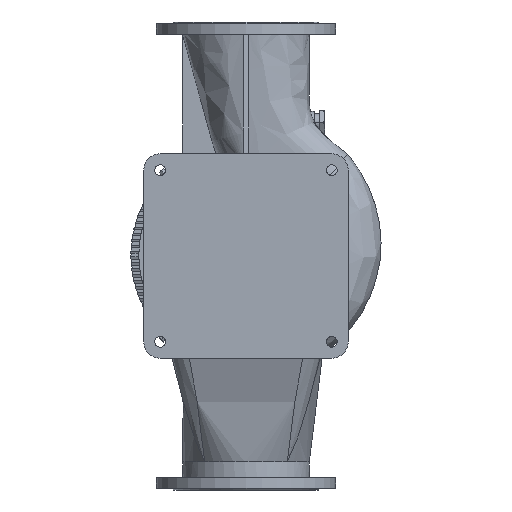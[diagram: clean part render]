
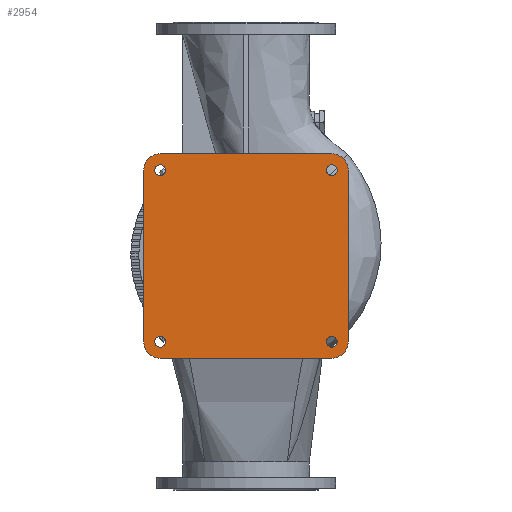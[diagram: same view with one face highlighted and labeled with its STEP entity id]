
A CAD part, front view. The second image highlights one B-rep face of the part: STEP entity #2954.
In plain terms, the highlighted planar face has unit normal (0, -1, 0).
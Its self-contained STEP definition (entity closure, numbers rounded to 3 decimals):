
#821=FACE_BOUND('',#6919,.T.);
#822=FACE_BOUND('',#6920,.T.);
#823=FACE_BOUND('',#6921,.T.);
#824=FACE_BOUND('',#6922,.T.);
#825=FACE_BOUND('',#6923,.T.);
#2210=PLANE('',#29421);
#2954=ADVANCED_FACE('',(#821,#822,#823,#824,#825),#2210,.T.);
#6919=EDGE_LOOP('',(#11233,#11234));
#6920=EDGE_LOOP('',(#11235,#11236));
#6921=EDGE_LOOP('',(#11237,#11238,#11239,#11240,#11241,#11242,#11243,#11244));
#6922=EDGE_LOOP('',(#11245,#11246));
#6923=EDGE_LOOP('',(#11247,#11248));
#8988=CIRCLE('',#29276,14.);
#8990=CIRCLE('',#29279,14.);
#8992=CIRCLE('',#29282,14.);
#8994=CIRCLE('',#29285,14.);
#9072=CIRCLE('',#29413,14.);
#9073=CIRCLE('',#29414,14.);
#9074=CIRCLE('',#29415,42.);
#9075=CIRCLE('',#29416,42.);
#9076=CIRCLE('',#29417,42.);
#9077=CIRCLE('',#29418,42.);
#9078=CIRCLE('',#29419,14.);
#9079=CIRCLE('',#29420,14.);
#11233=ORIENTED_EDGE('',*,*,#21970,.T.);
#11234=ORIENTED_EDGE('',*,*,#22192,.T.);
#11235=ORIENTED_EDGE('',*,*,#21978,.T.);
#11236=ORIENTED_EDGE('',*,*,#22193,.T.);
#11237=ORIENTED_EDGE('',*,*,#22194,.F.);
#11238=ORIENTED_EDGE('',*,*,#22195,.F.);
#11239=ORIENTED_EDGE('',*,*,#22196,.F.);
#11240=ORIENTED_EDGE('',*,*,#22197,.F.);
#11241=ORIENTED_EDGE('',*,*,#22198,.F.);
#11242=ORIENTED_EDGE('',*,*,#22199,.F.);
#11243=ORIENTED_EDGE('',*,*,#22200,.F.);
#11244=ORIENTED_EDGE('',*,*,#22201,.F.);
#11245=ORIENTED_EDGE('',*,*,#21974,.T.);
#11246=ORIENTED_EDGE('',*,*,#22202,.T.);
#11247=ORIENTED_EDGE('',*,*,#21966,.T.);
#11248=ORIENTED_EDGE('',*,*,#22203,.T.);
#19278=VERTEX_POINT('',#41731);
#19279=VERTEX_POINT('',#41733);
#19282=VERTEX_POINT('',#41740);
#19283=VERTEX_POINT('',#41742);
#19286=VERTEX_POINT('',#41749);
#19287=VERTEX_POINT('',#41751);
#19290=VERTEX_POINT('',#41758);
#19291=VERTEX_POINT('',#41760);
#19436=VERTEX_POINT('',#46888);
#19437=VERTEX_POINT('',#46889);
#19438=VERTEX_POINT('',#46891);
#19439=VERTEX_POINT('',#46893);
#19440=VERTEX_POINT('',#46895);
#19441=VERTEX_POINT('',#46897);
#19442=VERTEX_POINT('',#46899);
#19443=VERTEX_POINT('',#46901);
#21966=EDGE_CURVE('',#19279,#19278,#8988,.T.);
#21970=EDGE_CURVE('',#19283,#19282,#8990,.T.);
#21974=EDGE_CURVE('',#19287,#19286,#8992,.T.);
#21978=EDGE_CURVE('',#19291,#19290,#8994,.T.);
#22192=EDGE_CURVE('',#19282,#19283,#9072,.T.);
#22193=EDGE_CURVE('',#19290,#19291,#9073,.T.);
#22194=EDGE_CURVE('',#19436,#19437,#9074,.T.);
#22195=EDGE_CURVE('',#19438,#19436,#26107,.T.);
#22196=EDGE_CURVE('',#19439,#19438,#9075,.T.);
#22197=EDGE_CURVE('',#19440,#19439,#26108,.T.);
#22198=EDGE_CURVE('',#19441,#19440,#9076,.T.);
#22199=EDGE_CURVE('',#19442,#19441,#26109,.T.);
#22200=EDGE_CURVE('',#19443,#19442,#9077,.T.);
#22201=EDGE_CURVE('',#19437,#19443,#26110,.T.);
#22202=EDGE_CURVE('',#19286,#19287,#9078,.T.);
#22203=EDGE_CURVE('',#19278,#19279,#9079,.T.);
#26107=LINE('',#46890,#27660);
#26108=LINE('',#46894,#27661);
#26109=LINE('',#46898,#27662);
#26110=LINE('',#46902,#27663);
#27660=VECTOR('',#33428,1.);
#27661=VECTOR('',#33431,1.);
#27662=VECTOR('',#33434,1.);
#27663=VECTOR('',#33437,1.);
#29276=AXIS2_PLACEMENT_3D('',#41732,#33064,#33065);
#29279=AXIS2_PLACEMENT_3D('',#41741,#33072,#33073);
#29282=AXIS2_PLACEMENT_3D('',#41750,#33080,#33081);
#29285=AXIS2_PLACEMENT_3D('',#41759,#33088,#33089);
#29413=AXIS2_PLACEMENT_3D('',#46885,#33422,#33423);
#29414=AXIS2_PLACEMENT_3D('',#46886,#33424,#33425);
#29415=AXIS2_PLACEMENT_3D('',#46887,#33426,#33427);
#29416=AXIS2_PLACEMENT_3D('',#46892,#33429,#33430);
#29417=AXIS2_PLACEMENT_3D('',#46896,#33432,#33433);
#29418=AXIS2_PLACEMENT_3D('',#46900,#33435,#33436);
#29419=AXIS2_PLACEMENT_3D('',#46903,#33438,#33439);
#29420=AXIS2_PLACEMENT_3D('',#46904,#33440,#33441);
#29421=AXIS2_PLACEMENT_3D('',#46905,#33442,#33443);
#33064=DIRECTION('',(0.,1.,0.));
#33065=DIRECTION('',(0.,0.,1.));
#33072=DIRECTION('',(0.,1.,0.));
#33073=DIRECTION('',(0.,0.,1.));
#33080=DIRECTION('',(0.,1.,0.));
#33081=DIRECTION('',(0.,0.,1.));
#33088=DIRECTION('',(0.,1.,0.));
#33089=DIRECTION('',(0.,0.,1.));
#33422=DIRECTION('',(0.,1.,0.));
#33423=DIRECTION('',(0.,0.,1.));
#33424=DIRECTION('',(0.,1.,0.));
#33425=DIRECTION('',(0.,0.,1.));
#33426=DIRECTION('',(0.,1.,0.));
#33427=DIRECTION('',(0.,0.,-1.));
#33428=DIRECTION('',(0.,0.,-1.));
#33429=DIRECTION('',(0.,1.,0.));
#33430=DIRECTION('',(0.,0.,-1.));
#33431=DIRECTION('',(1.,0.,0.));
#33432=DIRECTION('',(0.,1.,0.));
#33433=DIRECTION('',(0.,0.,-1.));
#33434=DIRECTION('',(0.,0.,1.));
#33435=DIRECTION('',(0.,1.,0.));
#33436=DIRECTION('',(0.,0.,-1.));
#33437=DIRECTION('',(-1.,0.,0.));
#33438=DIRECTION('',(0.,1.,0.));
#33439=DIRECTION('',(0.,0.,1.));
#33440=DIRECTION('',(0.,1.,0.));
#33441=DIRECTION('',(0.,0.,1.));
#33442=DIRECTION('',(0.,-1.,0.));
#33443=DIRECTION('',(0.,0.,1.));
#41731=CARTESIAN_POINT('',(-220.,-285.,-206.));
#41732=CARTESIAN_POINT('',(-220.,-285.,-220.));
#41733=CARTESIAN_POINT('',(-220.,-285.,-234.));
#41740=CARTESIAN_POINT('',(-220.,-285.,234.));
#41741=CARTESIAN_POINT('',(-220.,-285.,220.));
#41742=CARTESIAN_POINT('',(-220.,-285.,206.));
#41749=CARTESIAN_POINT('',(220.,-285.,234.));
#41750=CARTESIAN_POINT('',(220.,-285.,220.));
#41751=CARTESIAN_POINT('',(220.,-285.,206.));
#41758=CARTESIAN_POINT('',(220.,-285.,-206.));
#41759=CARTESIAN_POINT('',(220.,-285.,-220.));
#41760=CARTESIAN_POINT('',(220.,-285.,-234.));
#46885=CARTESIAN_POINT('',(-220.,-285.,220.));
#46886=CARTESIAN_POINT('',(220.,-285.,-220.));
#46887=CARTESIAN_POINT('',(220.,-285.,-220.));
#46888=CARTESIAN_POINT('',(262.,-285.,-220.));
#46889=CARTESIAN_POINT('',(220.,-285.,-262.));
#46890=CARTESIAN_POINT('',(262.,-285.,-220.));
#46891=CARTESIAN_POINT('',(262.,-285.,220.));
#46892=CARTESIAN_POINT('',(220.,-285.,220.));
#46893=CARTESIAN_POINT('',(220.,-285.,262.));
#46894=CARTESIAN_POINT('',(220.,-285.,262.));
#46895=CARTESIAN_POINT('',(-220.,-285.,262.));
#46896=CARTESIAN_POINT('',(-220.,-285.,220.));
#46897=CARTESIAN_POINT('',(-262.,-285.,220.));
#46898=CARTESIAN_POINT('',(-262.,-285.,-220.));
#46899=CARTESIAN_POINT('',(-262.,-285.,-220.));
#46900=CARTESIAN_POINT('',(-220.,-285.,-220.));
#46901=CARTESIAN_POINT('',(-220.,-285.,-262.));
#46902=CARTESIAN_POINT('',(-220.,-285.,-262.));
#46903=CARTESIAN_POINT('',(220.,-285.,220.));
#46904=CARTESIAN_POINT('',(-220.,-285.,-220.));
#46905=CARTESIAN_POINT('',(220.,-285.,-220.));
